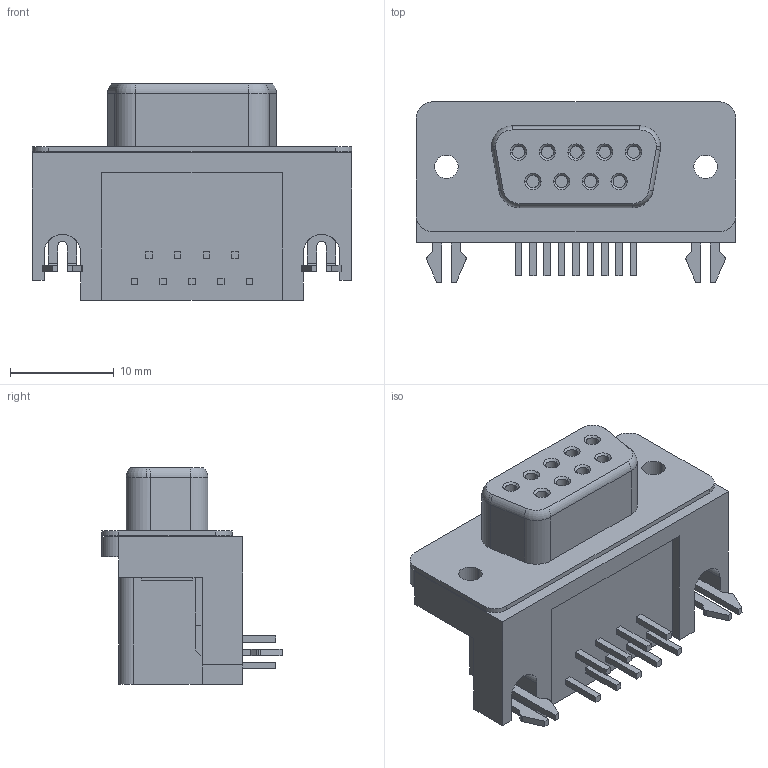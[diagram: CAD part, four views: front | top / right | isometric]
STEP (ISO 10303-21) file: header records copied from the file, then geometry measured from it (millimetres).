
FILE_DESCRIPTION (( 'STEP AP214' ), '1' );
FILE_NAME ('1634584-2.step', '2011-05-17T08:45:31', ( 'vpeshkov' ), ( 'licard' ), 'SwSTEP 2.0', 'SolidWorks 2009', '' );
FILE_SCHEMA (( 'AUTOMOTIVE_DESIGN' ));
Length unit declared in the file: millimetre
Products named in the file (1): 1634584-2
Bounding box: 30.8 x 17.38 x 20.88 mm (x, y, z)
Volume: 4748.9 mm3; surface area: 2919.9 mm2
Topology: 1 solids, 1 shells, 232 faces, 590 edges, 383 vertices
Faces by surface type: plane 145, cylinder 63, cone 18, torus 6
Entity records: 8611 total; most frequent: DIRECTION 1213, CARTESIAN_POINT 1206, ORIENTED_EDGE 1180, EDGE_CURVE 590, VECTOR 433, LINE 433, AXIS2_PLACEMENT_3D 390, VERTEX_POINT 383
